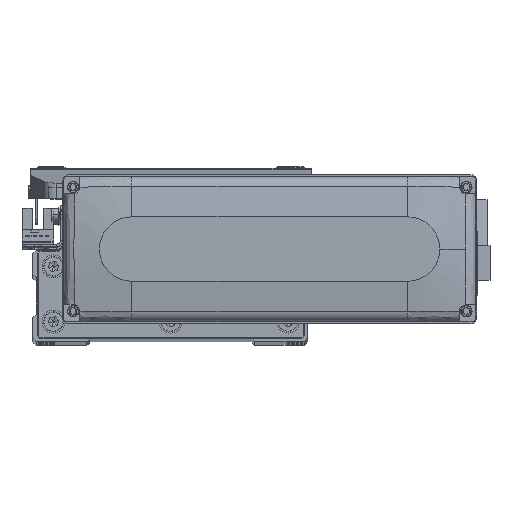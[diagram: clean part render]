
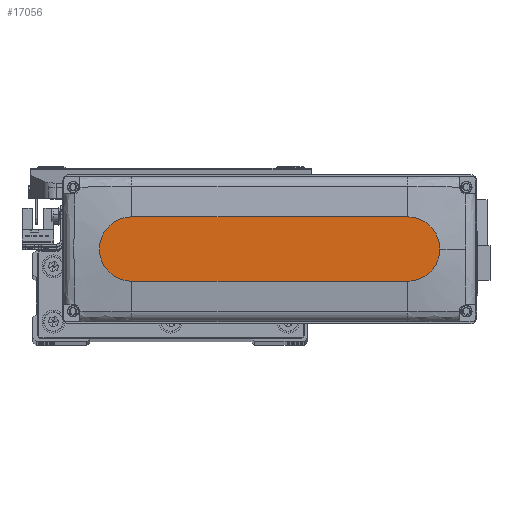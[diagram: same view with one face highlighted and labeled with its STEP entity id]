
A CAD part, top view. The second image highlights one B-rep face of the part: STEP entity #17056.
In plain terms, the highlighted planar face has unit normal (0, 0, 1).
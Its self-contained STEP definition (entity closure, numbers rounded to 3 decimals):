
#1264 = CIRCLE ( 'NONE', #36276, 14. ) ;
#1566 = VECTOR ( 'NONE', #15121, 1000. ) ;
#3011 = EDGE_CURVE ( 'NONE', #47083, #18474, #1264, .T. ) ;
#4223 = AXIS2_PLACEMENT_3D ( 'NONE', #45167, #28420, #14503 ) ;
#4257 = LINE ( 'NONE', #33600, #53177 ) ;
#7117 = CARTESIAN_POINT ( 'NONE',  ( 60., 14., 28.5 ) ) ;
#7940 = CARTESIAN_POINT ( 'NONE',  ( -60., 14., 28.5 ) ) ;
#10075 = VERTEX_POINT ( 'NONE', #24492 ) ;
#10622 = CARTESIAN_POINT ( 'NONE',  ( 60., 0., 28.5 ) ) ;
#13524 = VERTEX_POINT ( 'NONE', #45646 ) ;
#13835 = DIRECTION ( 'NONE',  ( 1., 0., 0. ) ) ;
#14503 = DIRECTION ( 'NONE',  ( 1., 0., 0. ) ) ;
#14637 = DIRECTION ( 'NONE',  ( 0., 0., 1. ) ) ;
#15044 = CIRCLE ( 'NONE', #16801, 14. ) ;
#15121 = DIRECTION ( 'NONE',  ( -1., 0., 0. ) ) ;
#15910 = EDGE_CURVE ( 'NONE', #10075, #24981, #4257, .T. ) ;
#16801 = AXIS2_PLACEMENT_3D ( 'NONE', #17941, #14637, #13835 ) ;
#17056 = ADVANCED_FACE ( 'NONE', ( #35358 ), #32801, .T. ) ;
#17941 = CARTESIAN_POINT ( 'NONE',  ( -60., 0., 28.5 ) ) ;
#18474 = VERTEX_POINT ( 'NONE', #7117 ) ;
#20147 = CARTESIAN_POINT ( 'NONE',  ( 60., -14., 28.5 ) ) ;
#21533 = DIRECTION ( 'NONE',  ( 1., 0., 0. ) ) ;
#24492 = CARTESIAN_POINT ( 'NONE',  ( -60., -14., 28.5 ) ) ;
#24981 = VERTEX_POINT ( 'NONE', #20147 ) ;
#25361 = EDGE_CURVE ( 'NONE', #18474, #13524, #29577, .T. ) ;
#28317 = EDGE_LOOP ( 'NONE', ( #50009, #53710, #39045, #38770, #31666 ) ) ;
#28344 = CARTESIAN_POINT ( 'NONE',  ( 60., 0., 28.5 ) ) ;
#28414 = EDGE_CURVE ( 'NONE', #13524, #10075, #15044, .T. ) ;
#28420 = DIRECTION ( 'NONE',  ( 0., 0., 1. ) ) ;
#29577 = LINE ( 'NONE', #7940, #1566 ) ;
#31666 = ORIENTED_EDGE ( 'NONE', *, *, #3011, .T. ) ;
#32801 = PLANE ( 'NONE',  #4223 ) ;
#32984 = DIRECTION ( 'NONE',  ( 1., 0., 0. ) ) ;
#33600 = CARTESIAN_POINT ( 'NONE',  ( -60., -14., 28.5 ) ) ;
#35037 = AXIS2_PLACEMENT_3D ( 'NONE', #10622, #47922, #48214 ) ;
#35358 = FACE_OUTER_BOUND ( 'NONE', #28317, .T. ) ;
#35894 = CIRCLE ( 'NONE', #35037, 14. ) ;
#36276 = AXIS2_PLACEMENT_3D ( 'NONE', #28344, #37112, #32984 ) ;
#37112 = DIRECTION ( 'NONE',  ( 0., 0., 1. ) ) ;
#37570 = EDGE_CURVE ( 'NONE', #24981, #47083, #35894, .T. ) ;
#38770 = ORIENTED_EDGE ( 'NONE', *, *, #37570, .T. ) ;
#39045 = ORIENTED_EDGE ( 'NONE', *, *, #15910, .T. ) ;
#39509 = CARTESIAN_POINT ( 'NONE',  ( 74., 0., 28.5 ) ) ;
#45167 = CARTESIAN_POINT ( 'NONE',  ( 0., 0., 28.5 ) ) ;
#45646 = CARTESIAN_POINT ( 'NONE',  ( -60., 14., 28.5 ) ) ;
#47083 = VERTEX_POINT ( 'NONE', #39509 ) ;
#47922 = DIRECTION ( 'NONE',  ( 0., 0., 1. ) ) ;
#48214 = DIRECTION ( 'NONE',  ( 1., 0., 0. ) ) ;
#50009 = ORIENTED_EDGE ( 'NONE', *, *, #25361, .T. ) ;
#53177 = VECTOR ( 'NONE', #21533, 1000. ) ;
#53710 = ORIENTED_EDGE ( 'NONE', *, *, #28414, .T. ) ;
